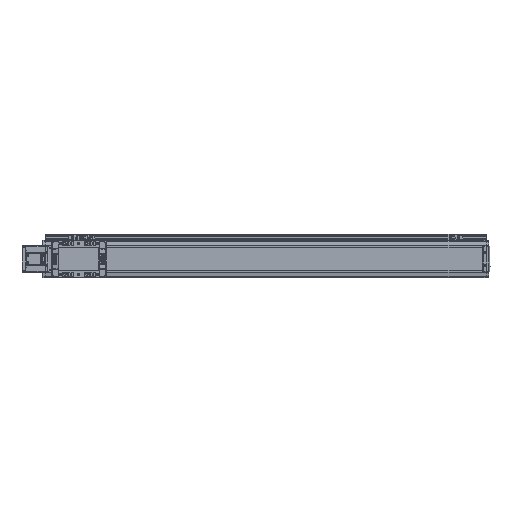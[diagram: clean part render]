
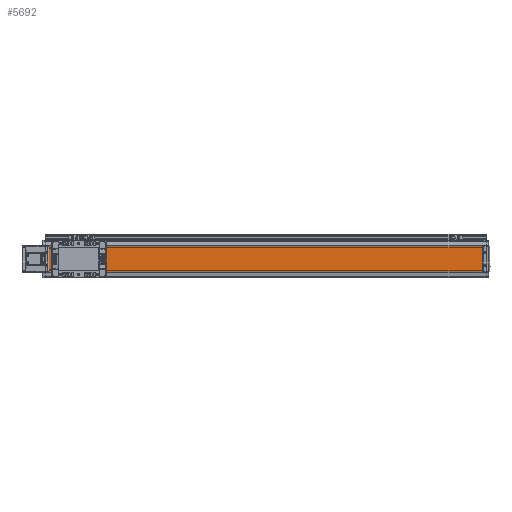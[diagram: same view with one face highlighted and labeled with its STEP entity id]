
A CAD part, top view. The second image highlights one B-rep face of the part: STEP entity #5692.
In plain terms, the highlighted planar face has unit normal (0, 0, 1).
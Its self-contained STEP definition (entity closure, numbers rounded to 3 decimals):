
#5692=ADVANCED_FACE('',(#13214),#13215,.T.);
#13214=FACE_OUTER_BOUND('',#23624,.T.);
#13215=PLANE('',#23625);
#23624=EDGE_LOOP('',(#39599,#39600,#39601,#39602));
#23625=AXIS2_PLACEMENT_3D('',#39603,#39604,#39605);
#39599=ORIENTED_EDGE('',*,*,#63810,.T.);
#39600=ORIENTED_EDGE('',*,*,#63295,.F.);
#39601=ORIENTED_EDGE('',*,*,#63811,.T.);
#39602=ORIENTED_EDGE('',*,*,#63812,.T.);
#39603=CARTESIAN_POINT('',(-580.,0.,20.15));
#39604=DIRECTION('',(0.,0.,1.0));
#39605=DIRECTION('',(0.,-1.0,0.));
#63295=EDGE_CURVE('',#77627,#77625,#77629,.T.);
#63810=EDGE_CURVE('',#78429,#77625,#78430,.T.);
#63811=EDGE_CURVE('',#77627,#78431,#78432,.T.);
#63812=EDGE_CURVE('',#78431,#78429,#78433,.T.);
#77625=VERTEX_POINT('',#97302);
#77627=VERTEX_POINT('',#97305);
#77629=LINE('',#97308,#97309);
#78429=VERTEX_POINT('',#98544);
#78430=LINE('',#98545,#98546);
#78431=VERTEX_POINT('',#98547);
#78432=LINE('',#98548,#98549);
#78433=LINE('',#98550,#98551);
#97302=CARTESIAN_POINT('',(600.,35.,20.15));
#97305=CARTESIAN_POINT('',(-580.,35.,20.15));
#97308=CARTESIAN_POINT('',(-580.,35.,20.15));
#97309=VECTOR('',#115393,10.0);
#98544=CARTESIAN_POINT('',(600.,-35.,20.15));
#98545=CARTESIAN_POINT('',(600.,35.,20.15));
#98546=VECTOR('',#116116,10.0);
#98547=CARTESIAN_POINT('',(-580.,-35.,20.15));
#98548=CARTESIAN_POINT('',(-580.,35.,20.15));
#98549=VECTOR('',#116117,10.0);
#98550=CARTESIAN_POINT('',(-580.,-35.,20.15));
#98551=VECTOR('',#116118,10.0);
#115393=DIRECTION('',(1.0,0.,0.));
#116116=DIRECTION('',(0.,1.0,0.));
#116117=DIRECTION('',(0.,-1.0,0.));
#116118=DIRECTION('',(1.0,0.,0.));
